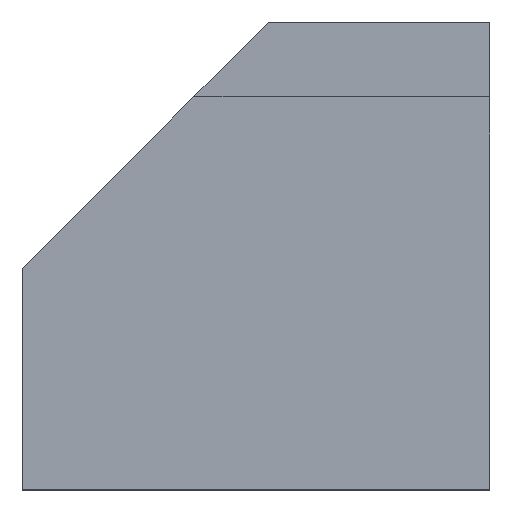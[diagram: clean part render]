
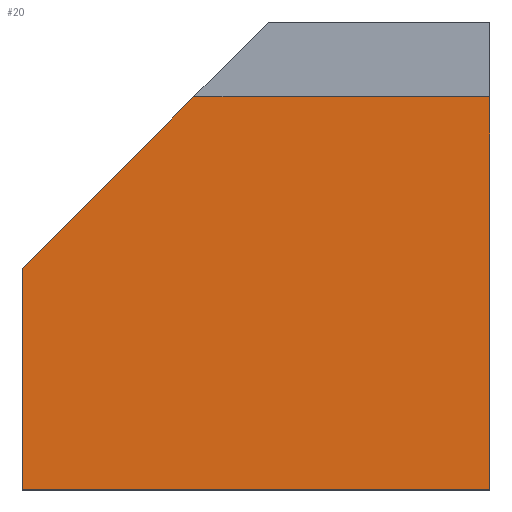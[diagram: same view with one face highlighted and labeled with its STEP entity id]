
A CAD part, top view. The second image highlights one B-rep face of the part: STEP entity #20.
In plain terms, the highlighted planar face has unit normal (0, 0, 1).
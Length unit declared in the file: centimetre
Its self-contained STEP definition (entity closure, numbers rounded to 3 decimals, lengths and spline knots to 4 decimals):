
#4 = AXIS2_PLACEMENT_3D ( 'NONE', #17, #67, #18 ) ;
#15 = ORIENTED_EDGE ( 'NONE', *, *, #129, .T. ) ;
#17 = CARTESIAN_POINT ( 'NONE',  ( 1000., 0., 408.4922 ) ) ;
#18 = DIRECTION ( 'NONE',  ( -1., 0., 0. ) ) ;
#19 = DIRECTION ( 'NONE',  ( 0., -1., 0. ) ) ;
#20 = ADVANCED_FACE ( 'NONE', ( #100 ), #48, .F. ) ;
#30 = LINE ( 'NONE', #58, #31 ) ;
#31 = VECTOR ( 'NONE', #143, 100. ) ;
#37 = CARTESIAN_POINT ( 'NONE',  ( 1000., 0., 408.4922 ) ) ;
#45 = VECTOR ( 'NONE', #72, 100. ) ;
#47 = CARTESIAN_POINT ( 'NONE',  ( 1000., 0., 408.4922 ) ) ;
#48 = PLANE ( 'NONE',  #4 ) ;
#53 = CARTESIAN_POINT ( 'NONE',  ( 0., 473.486, 408.4922 ) ) ;
#58 = CARTESIAN_POINT ( 'NONE',  ( 0., 0., 408.4922 ) ) ;
#63 = VERTEX_POINT ( 'NONE', #281 ) ;
#67 = DIRECTION ( 'NONE',  ( 0., 0., -1. ) ) ;
#70 = CARTESIAN_POINT ( 'NONE',  ( 1000., 840.6408, 408.4922 ) ) ;
#72 = DIRECTION ( 'NONE',  ( -1., 0., 0. ) ) ;
#73 = VERTEX_POINT ( 'NONE', #335 ) ;
#79 = CARTESIAN_POINT ( 'NONE',  ( 1000., 0., 408.4922 ) ) ;
#86 = EDGE_CURVE ( 'NONE', #95, #90, #186, .T. ) ;
#90 = VERTEX_POINT ( 'NONE', #53 ) ;
#95 = VERTEX_POINT ( 'NONE', #156 ) ;
#98 = VECTOR ( 'NONE', #158, 100. ) ;
#100 = FACE_OUTER_BOUND ( 'NONE', #295, .T. ) ;
#115 = ORIENTED_EDGE ( 'NONE', *, *, #178, .F. ) ;
#121 = VERTEX_POINT ( 'NONE', #79 ) ;
#126 = VECTOR ( 'NONE', #262, 100. ) ;
#129 = EDGE_CURVE ( 'NONE', #90, #63, #30, .T. ) ;
#139 = ORIENTED_EDGE ( 'NONE', *, *, #308, .T. ) ;
#143 = DIRECTION ( 'NONE',  ( 0., -1., 0. ) ) ;
#150 = LINE ( 'NONE', #70, #45 ) ;
#156 = CARTESIAN_POINT ( 'NONE',  ( 367.1548, 840.6408, 408.4922 ) ) ;
#158 = DIRECTION ( 'NONE',  ( -0.707, -0.707, 0. ) ) ;
#178 = EDGE_CURVE ( 'NONE', #121, #63, #325, .T. ) ;
#186 = LINE ( 'NONE', #210, #98 ) ;
#200 = ORIENTED_EDGE ( 'NONE', *, *, #86, .T. ) ;
#210 = CARTESIAN_POINT ( 'NONE',  ( 0., 473.486, 408.4922 ) ) ;
#262 = DIRECTION ( 'NONE',  ( -1., 0., 0. ) ) ;
#279 = LINE ( 'NONE', #47, #328 ) ;
#281 = CARTESIAN_POINT ( 'NONE',  ( 0., 0., 408.4922 ) ) ;
#295 = EDGE_LOOP ( 'NONE', ( #200, #15, #115, #307, #139 ) ) ;
#307 = ORIENTED_EDGE ( 'NONE', *, *, #336, .F. ) ;
#308 = EDGE_CURVE ( 'NONE', #73, #95, #150, .T. ) ;
#325 = LINE ( 'NONE', #37, #126 ) ;
#328 = VECTOR ( 'NONE', #19, 100. ) ;
#335 = CARTESIAN_POINT ( 'NONE',  ( 1000., 840.6408, 408.4922 ) ) ;
#336 = EDGE_CURVE ( 'NONE', #73, #121, #279, .T. ) ;
